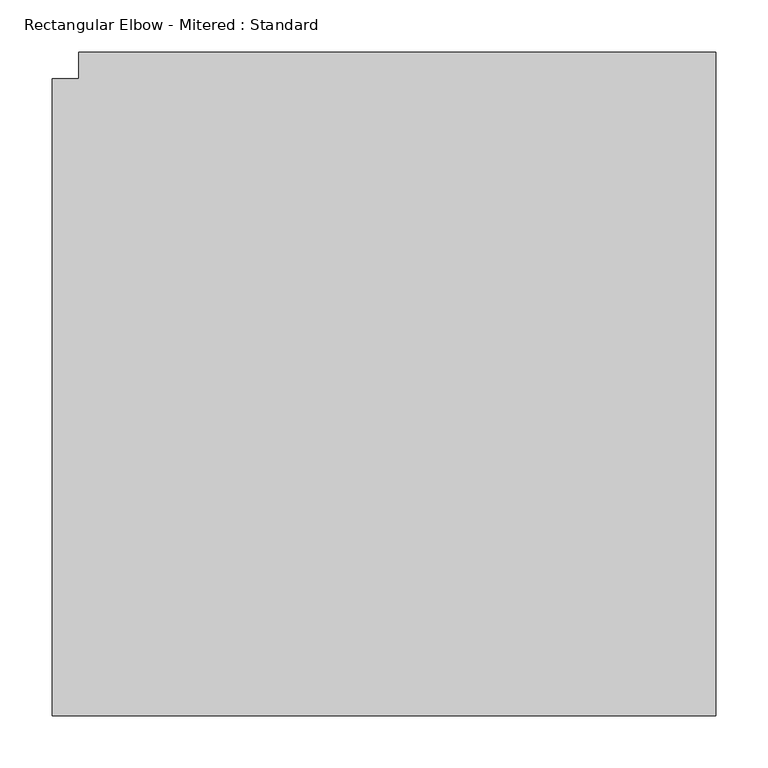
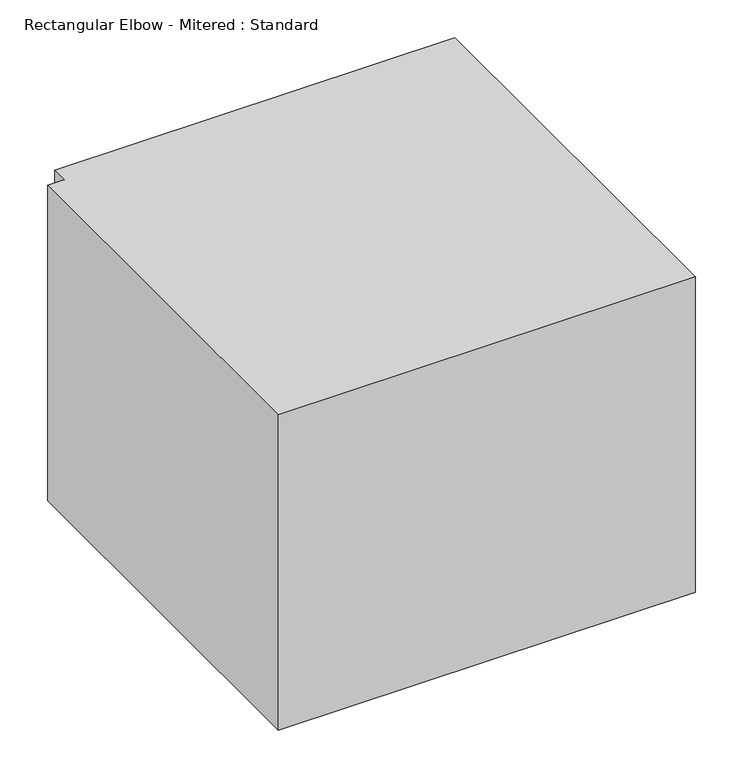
"""IFC4 building model written with IfcOpenShell, lengths in millimetres: duct fitting geometry, Rectangular Elbow - Mitered : Standard."""

from ifc_helpers import new_model, si_unit, frame, origin, place, context, project, spatial, polyline, outline, extrude, source, transform, mapped, element, save


def rectangular_elbow_mitered_standard_c7d444e8(model_context):
    return source(origin(), model_context, "Body", "SweptSolid", [
        extrude(outline(polyline([(-330.2, -304.8), (-330.2, 304.8), (-304.8, 304.8), (-304.8, 330.2), (304.8, 330.2), (304.8, -304.8), (-330.2, -304.8)])), frame((0.0, 0.0, -254.0), z_axis=(0.0, 0.0, 1.0), x_axis=(1.0, 0.0, 0.0)), (0.0, 0.0, 1.0), 508.0),
    ])


if __name__ == "__main__":
    model = new_model("IFC4")
    model_context = context("Model", 3, world=origin())
    ifc_project = project(units=[si_unit("LENGTHUNIT", "METRE", prefix="MILLI")], contexts=[model_context])
    site = spatial("IfcSite", under=ifc_project)
    building = spatial("IfcBuilding", under=site)
    placement = place(None, origin())
    rectangular_elbow_mitered_standard_shape = rectangular_elbow_mitered_standard_c7d444e8(model_context)
    element("IfcDuctFitting", 1, ObjectType="Rectangular Elbow - Mitered : Standard", at=placement, inside=building, context=model_context, shape_type="MappedRepresentation", body=[
        mapped(rectangular_elbow_mitered_standard_shape, transform((0.0, 0.0, 0.0), x_axis=(1.0, 0.0, 0.0), y_axis=(0.0, 1.0, 0.0), z_axis=(0.0, 0.0, 1.0))),
    ])
    save(model, "model.ifc")
